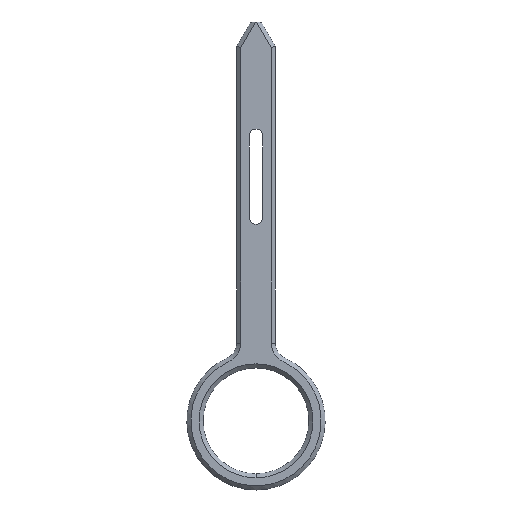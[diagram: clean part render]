
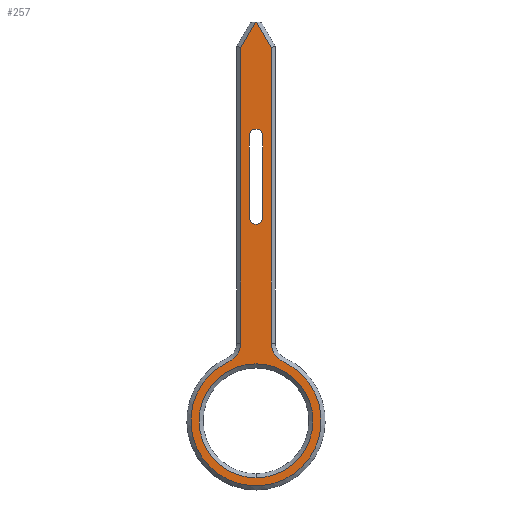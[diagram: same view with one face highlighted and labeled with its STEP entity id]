
A CAD part, front view. The second image highlights one B-rep face of the part: STEP entity #257.
In plain terms, the highlighted planar face has unit normal (0, -1, 0).
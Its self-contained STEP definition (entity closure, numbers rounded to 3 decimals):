
#8 = VERTEX_POINT ( 'NONE', #1109 ) ;
#10 = CARTESIAN_POINT ( 'NONE',  ( 8.75, -2.75, 3.09 ) ) ;
#12 = ORIENTED_EDGE ( 'NONE', *, *, #428, .T. ) ;
#23 = VECTOR ( 'NONE', #1153, 1000. ) ;
#25 = VERTEX_POINT ( 'NONE', #215 ) ;
#29 = DIRECTION ( 'NONE',  ( 0., 1., 0. ) ) ;
#49 = EDGE_LOOP ( 'NONE', ( #1028, #1174 ) ) ;
#54 = CARTESIAN_POINT ( 'NONE',  ( -3.75, -2.75, 75.732 ) ) ;
#60 = DIRECTION ( 'NONE',  ( 0., 0., 1. ) ) ;
#68 = DIRECTION ( 'NONE',  ( 0., 0., -1. ) ) ;
#83 = EDGE_CURVE ( 'NONE', #811, #901, #610, .T. ) ;
#90 = LINE ( 'NONE', #372, #422 ) ;
#99 = VERTEX_POINT ( 'NONE', #418 ) ;
#100 = AXIS2_PLACEMENT_3D ( 'NONE', #935, #1013, #475 ) ;
#113 = VERTEX_POINT ( 'NONE', #779 ) ;
#117 = DIRECTION ( 'NONE',  ( 0., 0., 1. ) ) ;
#121 = LINE ( 'NONE', #472, #766 ) ;
#126 = VERTEX_POINT ( 'NONE', #598 ) ;
#132 = ORIENTED_EDGE ( 'NONE', *, *, #182, .T. ) ;
#133 = AXIS2_PLACEMENT_3D ( 'NONE', #976, #522, #535 ) ;
#143 = AXIS2_PLACEMENT_3D ( 'NONE', #379, #1116, #842 ) ;
#148 = ORIENTED_EDGE ( 'NONE', *, *, #734, .T. ) ;
#162 = CARTESIAN_POINT ( 'NONE',  ( 0., -2.75, -30. ) ) ;
#171 = DIRECTION ( 'NONE',  ( -0.5, 0., -0.866 ) ) ;
#175 = CIRCLE ( 'NONE', #1068, 1.7 ) ;
#182 = EDGE_CURVE ( 'NONE', #757, #126, #175, .T. ) ;
#187 = CIRCLE ( 'NONE', #814, 5. ) ;
#215 = CARTESIAN_POINT ( 'NONE',  ( 1.7, -2.75, 54. ) ) ;
#236 = EDGE_CURVE ( 'NONE', #476, #1011, #121, .T. ) ;
#237 = PLANE ( 'NONE',  #957 ) ;
#256 = CIRCLE ( 'NONE', #100, 16. ) ;
#257 = ADVANCED_FACE ( 'NONE', ( #1124, #570, #386 ), #237, .F. ) ;
#259 = LINE ( 'NONE', #790, #23 ) ;
#262 = LINE ( 'NONE', #619, #708 ) ;
#270 = EDGE_CURVE ( 'NONE', #99, #950, #808, .T. ) ;
#277 = ORIENTED_EDGE ( 'NONE', *, *, #319, .T. ) ;
#289 = ORIENTED_EDGE ( 'NONE', *, *, #461, .T. ) ;
#313 = CARTESIAN_POINT ( 'NONE',  ( 0.131, -2.75, 82. ) ) ;
#319 = EDGE_CURVE ( 'NONE', #950, #25, #724, .T. ) ;
#340 = CARTESIAN_POINT ( 'NONE',  ( 3.75, -2.75, 82. ) ) ;
#344 = DIRECTION ( 'NONE',  ( 0., 0., 1. ) ) ;
#372 = CARTESIAN_POINT ( 'NONE',  ( 1.7, -2.75, 82. ) ) ;
#379 = CARTESIAN_POINT ( 'NONE',  ( 0., -2.75, 54. ) ) ;
#386 = FACE_BOUND ( 'NONE', #662, .T. ) ;
#387 = VECTOR ( 'NONE', #945, 1000. ) ;
#418 = CARTESIAN_POINT ( 'NONE',  ( -1.7, -2.75, 54. ) ) ;
#422 = VECTOR ( 'NONE', #912, 1000. ) ;
#428 = EDGE_CURVE ( 'NONE', #8, #823, #1155, .T. ) ;
#439 = EDGE_CURVE ( 'NONE', #476, #811, #262, .T. ) ;
#454 = CARTESIAN_POINT ( 'NONE',  ( -6.667, -2.75, -1.455 ) ) ;
#455 = CARTESIAN_POINT ( 'NONE',  ( -0.131, -2.75, 82. ) ) ;
#461 = EDGE_CURVE ( 'NONE', #25, #757, #90, .T. ) ;
#462 = AXIS2_PLACEMENT_3D ( 'NONE', #599, #624, #344 ) ;
#468 = CIRCLE ( 'NONE', #133, 14. ) ;
#472 = CARTESIAN_POINT ( 'NONE',  ( -4.75, -2.75, 82. ) ) ;
#475 = DIRECTION ( 'NONE',  ( 0., 0., 1. ) ) ;
#476 = VERTEX_POINT ( 'NONE', #455 ) ;
#522 = DIRECTION ( 'NONE',  ( 0., 1., 0. ) ) ;
#535 = DIRECTION ( 'NONE',  ( 0., 0., 1. ) ) ;
#550 = DIRECTION ( 'NONE',  ( 0., 0., 1. ) ) ;
#553 = VECTOR ( 'NONE', #1066, 1000. ) ;
#557 = ORIENTED_EDGE ( 'NONE', *, *, #83, .T. ) ;
#570 = FACE_OUTER_BOUND ( 'NONE', #914, .T. ) ;
#576 = ORIENTED_EDGE ( 'NONE', *, *, #439, .T. ) ;
#587 = CARTESIAN_POINT ( 'NONE',  ( -4.75, -2.75, 82. ) ) ;
#591 = CARTESIAN_POINT ( 'NONE',  ( 1.7, -2.75, 34. ) ) ;
#594 = ORIENTED_EDGE ( 'NONE', *, *, #872, .T. ) ;
#598 = CARTESIAN_POINT ( 'NONE',  ( -1.7, -2.75, 34. ) ) ;
#599 = CARTESIAN_POINT ( 'NONE',  ( 0., -2.75, 54. ) ) ;
#610 = LINE ( 'NONE', #1071, #818 ) ;
#619 = CARTESIAN_POINT ( 'NONE',  ( -3.884, -2.75, 75.5 ) ) ;
#624 = DIRECTION ( 'NONE',  ( 0., 1., 0. ) ) ;
#635 = VERTEX_POINT ( 'NONE', #1121 ) ;
#654 = CARTESIAN_POINT ( 'NONE',  ( -8.75, -2.75, 3.09 ) ) ;
#662 = EDGE_LOOP ( 'NONE', ( #289, #132, #148, #727, #277 ) ) ;
#672 = EDGE_CURVE ( 'NONE', #878, #635, #256, .T. ) ;
#684 = ORIENTED_EDGE ( 'NONE', *, *, #236, .F. ) ;
#688 = DIRECTION ( 'NONE',  ( 0., 0., 1. ) ) ;
#708 = VECTOR ( 'NONE', #171, 1000. ) ;
#724 = CIRCLE ( 'NONE', #462, 1.7 ) ;
#727 = ORIENTED_EDGE ( 'NONE', *, *, #270, .T. ) ;
#728 = VERTEX_POINT ( 'NONE', #162 ) ;
#734 = EDGE_CURVE ( 'NONE', #126, #99, #259, .T. ) ;
#739 = ORIENTED_EDGE ( 'NONE', *, *, #986, .T. ) ;
#742 = CARTESIAN_POINT ( 'NONE',  ( 0., -2.75, 55.7 ) ) ;
#748 = DIRECTION ( 'NONE',  ( 0., 1., 0. ) ) ;
#752 = DIRECTION ( 'NONE',  ( 0., 0., 1. ) ) ;
#755 = CARTESIAN_POINT ( 'NONE',  ( 0.42, -2.75, 81.5 ) ) ;
#757 = VERTEX_POINT ( 'NONE', #591 ) ;
#759 = DIRECTION ( 'NONE',  ( 0., 1., 0. ) ) ;
#764 = ORIENTED_EDGE ( 'NONE', *, *, #672, .T. ) ;
#766 = VECTOR ( 'NONE', #1043, 1000. ) ;
#779 = CARTESIAN_POINT ( 'NONE',  ( 0., -2.75, -2. ) ) ;
#781 = ORIENTED_EDGE ( 'NONE', *, *, #954, .T. ) ;
#790 = CARTESIAN_POINT ( 'NONE',  ( -1.7, -2.75, 82. ) ) ;
#797 = CARTESIAN_POINT ( 'NONE',  ( 3.75, -2.75, 75.732 ) ) ;
#808 = CIRCLE ( 'NONE', #143, 1.7 ) ;
#811 = VERTEX_POINT ( 'NONE', #54 ) ;
#814 = AXIS2_PLACEMENT_3D ( 'NONE', #10, #29, #550 ) ;
#818 = VECTOR ( 'NONE', #68, 1000. ) ;
#823 = VERTEX_POINT ( 'NONE', #797 ) ;
#838 = CARTESIAN_POINT ( 'NONE',  ( -3.75, -2.75, 3.09 ) ) ;
#842 = DIRECTION ( 'NONE',  ( 0., 0., 1. ) ) ;
#848 = LINE ( 'NONE', #755, #387 ) ;
#872 = EDGE_CURVE ( 'NONE', #635, #8, #187, .T. ) ;
#878 = VERTEX_POINT ( 'NONE', #454 ) ;
#893 = CARTESIAN_POINT ( 'NONE',  ( 0., -2.75, 34. ) ) ;
#901 = VERTEX_POINT ( 'NONE', #838 ) ;
#904 = CIRCLE ( 'NONE', #1054, 14. ) ;
#912 = DIRECTION ( 'NONE',  ( 0., 0., -1. ) ) ;
#914 = EDGE_LOOP ( 'NONE', ( #684, #576, #557, #781, #764, #594, #12, #739 ) ) ;
#935 = CARTESIAN_POINT ( 'NONE',  ( 0., -2.75, -16. ) ) ;
#945 = DIRECTION ( 'NONE',  ( -0.5, 0., 0.866 ) ) ;
#950 = VERTEX_POINT ( 'NONE', #742 ) ;
#954 = EDGE_CURVE ( 'NONE', #901, #878, #996, .T. ) ;
#957 = AXIS2_PLACEMENT_3D ( 'NONE', #587, #759, #752 ) ;
#976 = CARTESIAN_POINT ( 'NONE',  ( 0., -2.75, -16. ) ) ;
#986 = EDGE_CURVE ( 'NONE', #823, #1011, #848, .T. ) ;
#996 = CIRCLE ( 'NONE', #1106, 5. ) ;
#1002 = EDGE_CURVE ( 'NONE', #728, #113, #904, .T. ) ;
#1011 = VERTEX_POINT ( 'NONE', #313 ) ;
#1013 = DIRECTION ( 'NONE',  ( 0., -1., 0. ) ) ;
#1028 = ORIENTED_EDGE ( 'NONE', *, *, #1002, .T. ) ;
#1043 = DIRECTION ( 'NONE',  ( 1., 0., 0. ) ) ;
#1054 = AXIS2_PLACEMENT_3D ( 'NONE', #1112, #1133, #60 ) ;
#1066 = DIRECTION ( 'NONE',  ( 0., 0., 1. ) ) ;
#1068 = AXIS2_PLACEMENT_3D ( 'NONE', #893, #1160, #688 ) ;
#1071 = CARTESIAN_POINT ( 'NONE',  ( -3.75, -2.75, 82. ) ) ;
#1106 = AXIS2_PLACEMENT_3D ( 'NONE', #654, #748, #117 ) ;
#1109 = CARTESIAN_POINT ( 'NONE',  ( 3.75, -2.75, 3.09 ) ) ;
#1112 = CARTESIAN_POINT ( 'NONE',  ( 0., -2.75, -16. ) ) ;
#1116 = DIRECTION ( 'NONE',  ( 0., 1., 0. ) ) ;
#1117 = EDGE_CURVE ( 'NONE', #113, #728, #468, .T. ) ;
#1121 = CARTESIAN_POINT ( 'NONE',  ( 6.667, -2.75, -1.455 ) ) ;
#1124 = FACE_BOUND ( 'NONE', #49, .T. ) ;
#1133 = DIRECTION ( 'NONE',  ( 0., 1., 0. ) ) ;
#1153 = DIRECTION ( 'NONE',  ( 0., 0., 1. ) ) ;
#1155 = LINE ( 'NONE', #340, #553 ) ;
#1160 = DIRECTION ( 'NONE',  ( 0., 1., 0. ) ) ;
#1174 = ORIENTED_EDGE ( 'NONE', *, *, #1117, .T. ) ;
